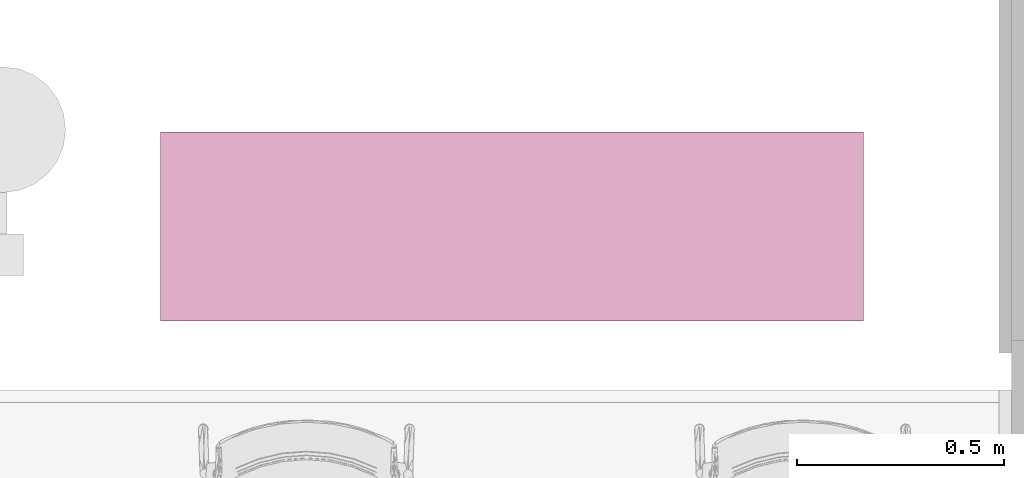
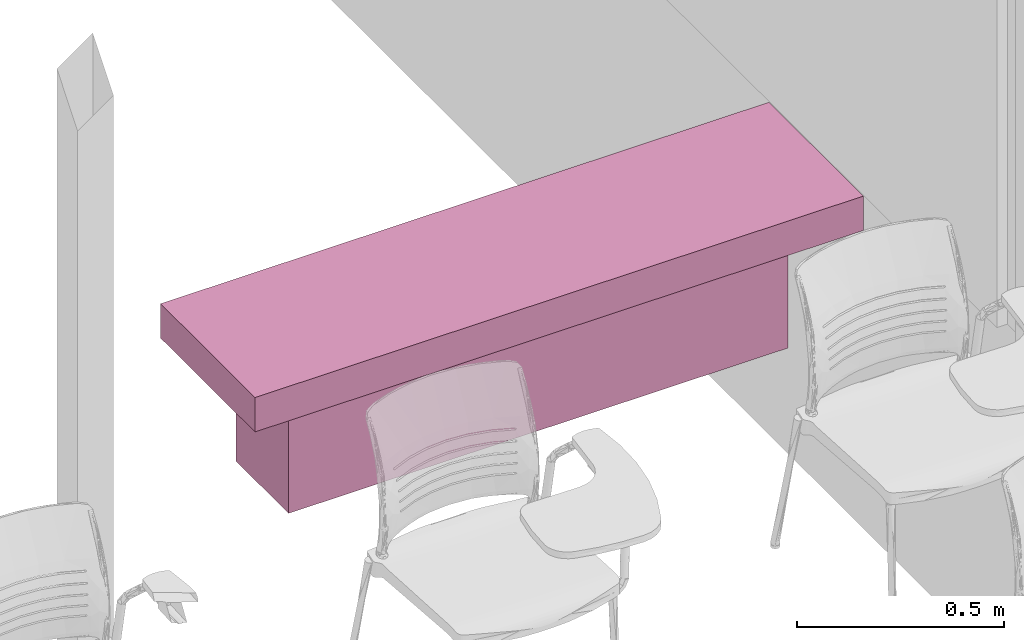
# One storey, part 145 of 155: 1 furnishing.
"""IFC2X3 building model written with IfcOpenShell, lengths in metres."""

from ifc_helpers import new_model, entity, si_unit, converted_unit, derived_unit, direction, frame, origin, origin_2d_with_axis, place, context, subcontext, project, spatial, rectangle, extrude, source, transform, mapped, material, type_object, type_shapes, element, save


model = new_model("IFC2X3")

# Units and contexts
model_context = context("Model", 3, precision=1e-05, world=origin(), true_north=direction((6.12303176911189e-17, 1.0)))
body_context = subcontext(model_context, "Body", "Model", "MODEL_VIEW")
ifc_project = project(units=[si_unit("LENGTHUNIT", "METRE"), si_unit("AREAUNIT", "SQUARE_METRE"), si_unit("VOLUMEUNIT", "CUBIC_METRE"), converted_unit("PLANEANGLEUNIT", "DEGREE", entity("IfcRatioMeasure", 0.0174532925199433), si_unit("PLANEANGLEUNIT", "RADIAN"), dimensions=[0, 0, 0, 0, 0, 0, 0]), si_unit("MASSUNIT", "GRAM", prefix="KILO"), derived_unit("MASSDENSITYUNIT", [(si_unit("MASSUNIT", "GRAM", prefix="KILO"), 1), (si_unit("LENGTHUNIT", "METRE"), -3)]), si_unit("TIMEUNIT", "SECOND"), si_unit("FREQUENCYUNIT", "HERTZ"), si_unit("THERMODYNAMICTEMPERATUREUNIT", "DEGREE_CELSIUS"), derived_unit("THERMALTRANSMITTANCEUNIT", [(si_unit("MASSUNIT", "GRAM", prefix="KILO"), 1), (si_unit("THERMODYNAMICTEMPERATUREUNIT", "KELVIN"), -1), (si_unit("TIMEUNIT", "SECOND"), -3)]), derived_unit("VOLUMETRICFLOWRATEUNIT", [(si_unit("LENGTHUNIT", "METRE"), 3), (si_unit("TIMEUNIT", "SECOND"), -1)]), si_unit("ELECTRICCURRENTUNIT", "AMPERE"), si_unit("ELECTRICVOLTAGEUNIT", "VOLT"), si_unit("POWERUNIT", "WATT"), si_unit("FORCEUNIT", "NEWTON", prefix="KILO"), si_unit("ILLUMINANCEUNIT", "LUX"), si_unit("LUMINOUSFLUXUNIT", "LUMEN"), si_unit("LUMINOUSINTENSITYUNIT", "CANDELA"), derived_unit("USERDEFINED", [(si_unit("MASSUNIT", "GRAM", prefix="KILO"), -1), (si_unit("LENGTHUNIT", "METRE"), -2), (si_unit("TIMEUNIT", "SECOND"), 3), (si_unit("LUMINOUSFLUXUNIT", "LUMEN"), 1)]), derived_unit("LINEARVELOCITYUNIT", [(si_unit("LENGTHUNIT", "METRE"), 1), (si_unit("TIMEUNIT", "SECOND"), -1)]), si_unit("PRESSUREUNIT", "PASCAL"), derived_unit("USERDEFINED", [(si_unit("LENGTHUNIT", "METRE"), -2), (si_unit("MASSUNIT", "GRAM", prefix="KILO"), 1), (si_unit("TIMEUNIT", "SECOND"), -2)])], contexts=[model_context])

# Site, building, storey, space
site_placement = place(None, frame((26.9889013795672, -17.5624287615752, 0.0)))
site = spatial("IfcSite", under=ifc_project, at=site_placement, Name="Default", CompositionType="ELEMENT")
building_placement = place(site_placement, origin())
building = spatial("IfcBuilding", under=site, at=building_placement, Name="C. C. L. Monsenhor Antônio Sampaio", CompositionType="ELEMENT")
storey_placement = place(building_placement, frame((0.0, 0.0, 1.19999999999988)))
storey = spatial("IfcBuildingStorey", under=building, at=storey_placement, Name="Nível 1.2", CompositionType="ELEMENT", Elevation=1.19999999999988)
space_placement = place(storey_placement, origin())
space = spatial("IfcSpace", under=storey, at=space_placement, Name="104", CompositionType="ELEMENT", InteriorOrExteriorSpace="INTERNAL")

# Furnishing
ifc_material = material(Name="Concrete")
furniture_type = type_object("IfcFurnitureType", Name="Concrete_Bench_7009", material=ifc_material)
shared_shape = source(origin(), body_context, "Body", "SweptSolid", [
    extrude(rectangle(XDim=0.254, YDim=1.3952, at=origin_2d_with_axis()), frame((0.849999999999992, 0.0, 0.0), z_axis=(0.0, 0.0, 1.0), x_axis=(0.0, 1.0, 0.0)), (0.0, 0.0, 1.0), 0.3556),
    extrude(rectangle(XDim=0.4572, YDim=1.7, at=origin_2d_with_axis()), frame((0.849999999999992, 0.0, 0.355599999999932), z_axis=(0.0, 0.0, 1.0), x_axis=(0.0, 1.0, 0.0)), (0.0, 0.0, 1.0), 0.1016),
])
type_shapes(furniture_type, [shared_shape])
furnishing_placement = place(space_placement, frame((9.55121653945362, -22.507638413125, 0.0)))
element("IfcFurnishingElement", 1, at=furnishing_placement, inside=space, type_object=furniture_type, material=ifc_material, Name="Banco Concreto:Concrete_Bench_7009", ObjectType="Concrete_Bench_7009", context=body_context, shape_type="MappedRepresentation", body=[
    mapped(shared_shape, transform((0.0, 0.0, 0.0), scale=1.0)),
])

save(model, "model.ifc")
